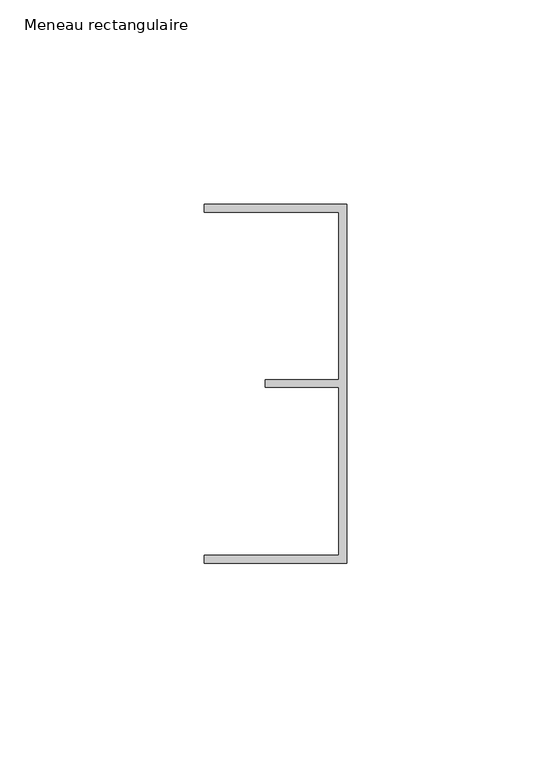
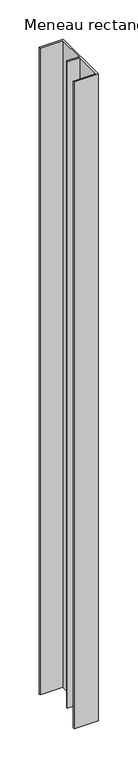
"""IFC4 building model written with IfcOpenShell, lengths in millimetres: member geometry, Meneau rectangulaire : LISSERIE_PLAFOND_COIFFANTE 94-KLP00-P80-SD20ALU."""

from ifc_helpers import new_model, si_unit, frame, origin, place, context, project, spatial, polyline, outline, extrude, source, transform, mapped, element, save


def meneau_rectangulaire_5bdb3d18(model_context):
    return source(origin(), model_context, "Body", "SweptSolid", [
        extrude(outline(polyline([(0.0, 44.0), (0.0, -44.0), (-35.0, -44.0), (-35.0, -42.0), (-2.0, -42.0), (-2.0, -0.9316478), (-20.0, -0.9316478), (-20.0, 0.9316478), (-2.0, 0.9316478), (-2.0, 42.0), (-35.0, 42.0), (-35.0, 44.0), (0.0, 44.0)])), frame((0.0, 0.0, -1000.0), z_axis=(0.0, 0.0, 1.0), x_axis=(1.0, 0.0, 0.0)), (0.0, 0.0, 1.0), 1000.0),
    ])


if __name__ == "__main__":
    model = new_model("IFC4")
    model_context = context("Model", 3, world=origin())
    ifc_project = project(units=[si_unit("LENGTHUNIT", "METRE", prefix="MILLI")], contexts=[model_context])
    site = spatial("IfcSite", under=ifc_project)
    building = spatial("IfcBuilding", under=site)
    placement = place(None, origin())
    meneau_rectangulaire_shape = meneau_rectangulaire_5bdb3d18(model_context)
    element("IfcMember", 1, ObjectType="Meneau rectangulaire : LISSERIE_PLAFOND_COIFFANTE 94-KLP00-P80-SD20ALU", at=placement, inside=building, context=model_context, shape_type="MappedRepresentation", body=[
        mapped(meneau_rectangulaire_shape, transform((0.0, 0.0, 0.0), x_axis=(1.0, 0.0, 0.0), y_axis=(0.0, 1.0, 0.0), z_axis=(0.0, 0.0, 1.0))),
    ])
    save(model, "model.ifc")
